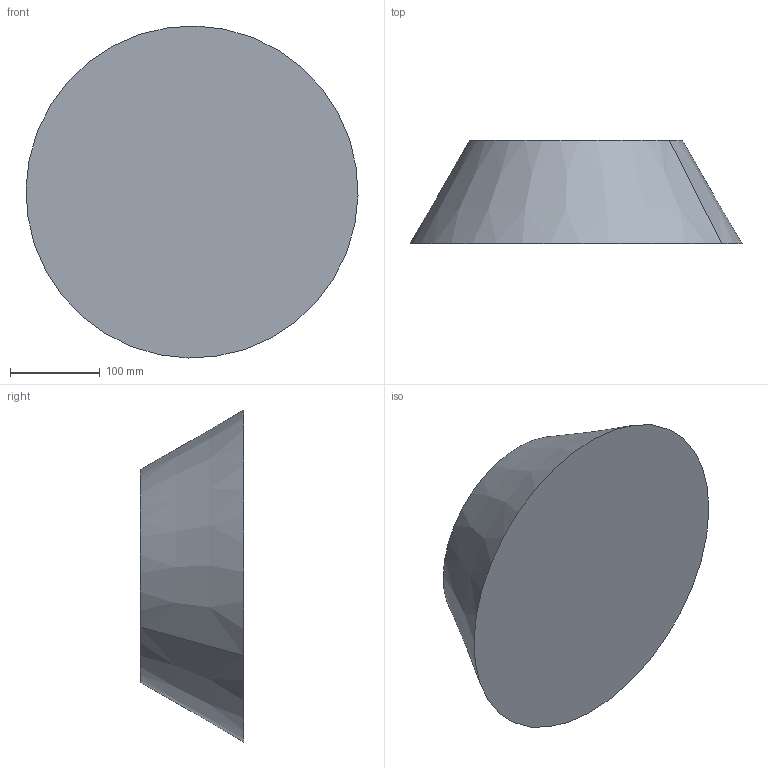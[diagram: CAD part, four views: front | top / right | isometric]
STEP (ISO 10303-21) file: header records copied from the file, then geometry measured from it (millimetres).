
FILE_DESCRIPTION(('CATIA V5 STEP Exchange'),'2;1');
FILE_NAME('C:\_Andres\UNIVERSIDAD\IQS\ASIGNATURAS\DAO\EXF\EXF-16172c\2inicio\Homs_Ruano_Ej09_v15.stp','2017-03-05T22:13:12+00:00',('none'),('none'),'CATIA Version 5-6 Release 2014 SP1 HF18','CATIA V5 STEP AP203','none');
FILE_SCHEMA(('CONFIG_CONTROL_DESIGN'));
Length unit declared in the file: millimetre
Products named in the file (1): Homs_Ruano_Ej09_v15
Bounding box: 369.9 x 115 x 369.9 mm (x, y, z)
Volume: 8450260.7 mm3; surface area: 280569.1 mm2
Topology: 1 solids, 2 shells, 8 faces, 12 edges, 8 vertices
Faces by surface type: plane 4, cone 2, cylinder 2
Entity records: 205 total; most frequent: CARTESIAN_POINT 27, DIRECTION 24, ORIENTED_EDGE 24, AXIS2_PLACEMENT_3D 15, EDGE_CURVE 12, ADVANCED_FACE 8, CIRCLE 8, EDGE_LOOP 8
